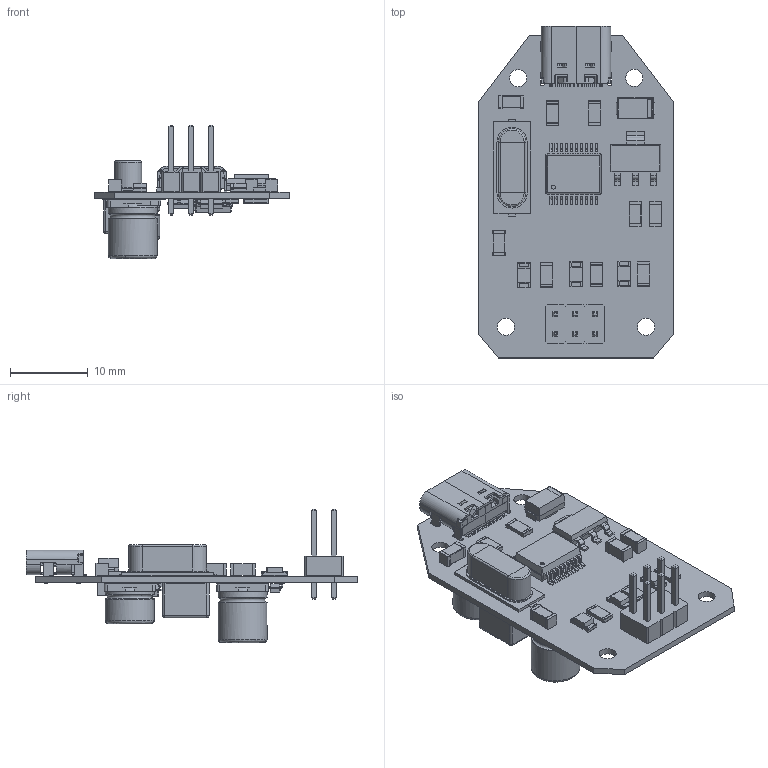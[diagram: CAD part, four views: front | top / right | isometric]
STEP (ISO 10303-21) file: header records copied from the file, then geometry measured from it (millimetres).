
FILE_DESCRIPTION(('KiCad electronic assembly'),'2;1');
FILE_NAME('PICKit_Clone_KiCAD.step','2026-01-12T19:01:35',('Pcbnew'),( 'Kicad'),'Open CASCADE STEP processor 7.7','KiCad to STEP converter' ,'Unknown');
FILE_SCHEMA(('AUTOMOTIVE_DESIGN { 1 0 10303 214 1 1 1 1 }'));
Length unit declared in the file: millimetre
Products named in the file (32): PICKit_Clone_KiCAD 1; C_1206_3216Metric; LED_1206_3216Metric; Crystal_SMD_HC49-SD; D_SMA; R_1206_3216Metric; SSOP-20_5.3x7.2mm_P0.65mm; SSOP_20_53x72mm_P065mm; SOT-223; SOT_223; USB_C_Receptacle_GCT_USB4105-xx-A_16P_TopMnt_Horizontal; USB_C_Receptacle_16P_TopMnt_Horizontal_GCT_USB4105-xx-A; PinHeader_2x03_P2.54mm_Vertical; PinHeader_2x03_P254mm_Vertical; SOT-23; SOT_23; L_Sunlord_SWPA6045S; CQ assembly; SOIC-8_3.9x4.9mm_P1.27mm; SOIC_8_39x49mm_P127mm; CP_Elec_6.3x7.7; CP_Elec_63x77; D_SOD-323; D_SOD_323; CP_Elec_6.3x5.3; CP_Elec_63x53; PICKit_Clone_KiCAD_PCB
Assembly tree (52 placements, depth 3):
  PICKit_Clone_KiCAD 1
    C_1206_3216Metric  x5
      C_1206_3216Metric
    LED_1206_3216Metric  x3
      LED_1206_3216Metric
    Crystal_SMD_HC49-SD
      Crystal_SMD_HC49-SD
    D_SMA
      D_SMA
    R_1206_3216Metric  x15
      R_1206_3216Metric
    SSOP-20_5.3x7.2mm_P0.65mm
      SSOP_20_53x72mm_P065mm
    SOT-223
      SOT_223
    USB_C_Receptacle_GCT_USB4105-xx-A_16P_TopMnt_Horizontal
      USB_C_Receptacle_16P_TopMnt_Horizontal_GCT_USB4105-xx-A
    PinHeader_2x03_P2.54mm_Vertical
      PinHeader_2x03_P254mm_Vertical
    SOT-23  x2
      SOT_23
    L_Sunlord_SWPA6045S
      CQ assembly
    SOIC-8_3.9x4.9mm_P1.27mm
      SOIC_8_39x49mm_P127mm
    CP_Elec_6.3x7.7
      CP_Elec_63x77
    D_SOD-323
      D_SOD_323
    CP_Elec_6.3x5.3
      CP_Elec_63x53
    PICKit_Clone_KiCAD_PCB
Bounding box: 25 x 42.67 x 17.14 mm (x, y, z)
Volume: 1972.2 mm3; surface area: 4626.5 mm2
Topology: 74 solids, 74 shells, 2489 faces, 6309 edges, 3986 vertices
Faces by surface type: plane 1715, cylinder 564, bspline 186, torus 10, cone 8, sphere 4, revolution 2
Full cylindrical faces by diameter (mm): 0.5 x3, 0.6 x1, 0.65 x2, 1 x6, 2.2 x4, 6.3 x4
Entity records: 67426 total; most frequent: CARTESIAN_POINT 10502, ORIENTED_EDGE 9238, DIRECTION 8665, EDGE_CURVE 4619, LINE 3649, VECTOR 3649, VERTEX_POINT 2900, AXIS2_PLACEMENT_3D 2507
